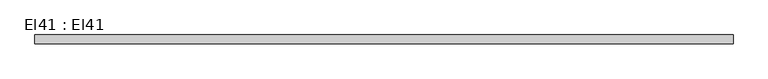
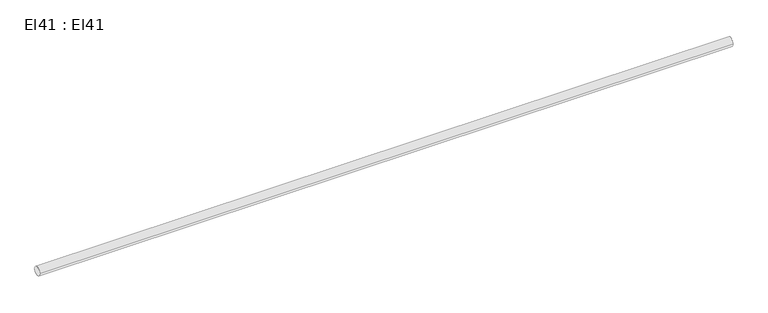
"""IFC4 building model written with IfcOpenShell, lengths in millimetres: cable carrier segment geometry, El41 : El41."""

from ifc_helpers import new_model, si_unit, point, frame, frame_2d, origin, place, context, project, spatial, circle_curve, trimmed, segment, composite_curve, outline, extrude, source, transform, mapped, element, save


def el41_el41_c49a1b7f(model_context):
    return source(origin(), model_context, "Body", "SweptSolid", [
        extrude(outline(composite_curve([segment(trimmed(circle_curve(frame_2d((16597.1, 2950.0)), 9.5), [point((16587.6, 2950.0))], [point((16606.6, 2950.0))], False, "CARTESIAN"), True, "CONTINUOUS"), segment(trimmed(circle_curve(frame_2d((16597.1, 2950.0)), 9.5), [point((16606.6, 2950.0))], [point((16587.6, 2950.0))], False, "CARTESIAN"), True, "CONTINUOUS")], self_intersect=False)), frame((10588.3, 0.0, 0.0), z_axis=(1.0, 0.0, 0.0), x_axis=(0.0, 1.0, 0.0)), (0.0, 0.0, 1.0), 1475.0),
    ])


if __name__ == "__main__":
    model = new_model("IFC4")
    model_context = context("Model", 3, world=origin())
    ifc_project = project(units=[si_unit("LENGTHUNIT", "METRE", prefix="MILLI")], contexts=[model_context])
    site = spatial("IfcSite", under=ifc_project)
    building = spatial("IfcBuilding", under=site)
    placement = place(None, origin())
    el41_el41_shape = el41_el41_c49a1b7f(model_context)
    element("IfcCableCarrierSegment", 1, ObjectType="El41 : El41", at=placement, inside=building, context=model_context, shape_type="MappedRepresentation", body=[
        mapped(el41_el41_shape, transform((0.0, 0.0, 0.0), x_axis=(1.0, 0.0, 0.0), y_axis=(0.0, 1.0, 0.0), z_axis=(0.0, 0.0, 1.0))),
    ])
    save(model, "model.ifc")
